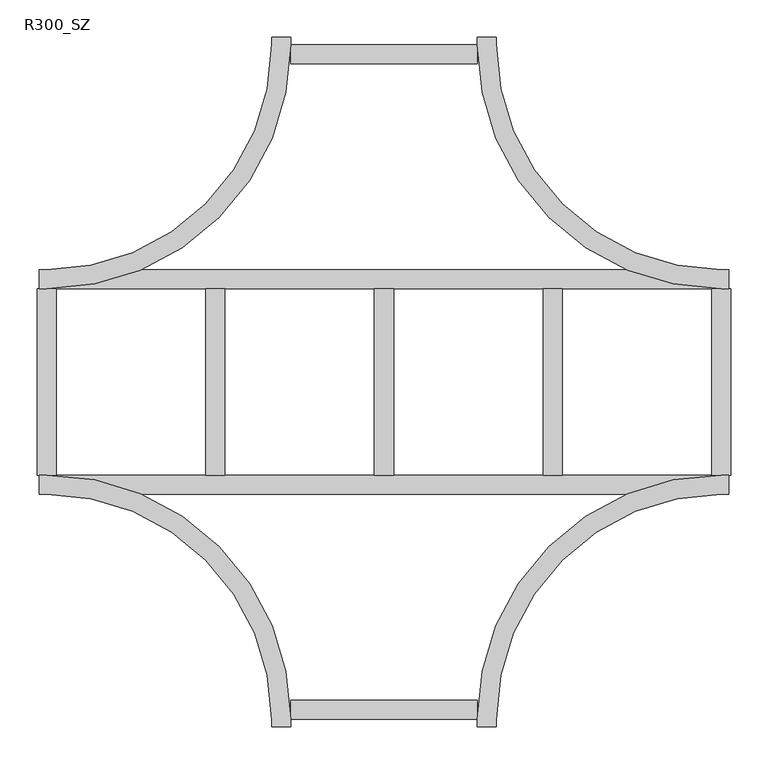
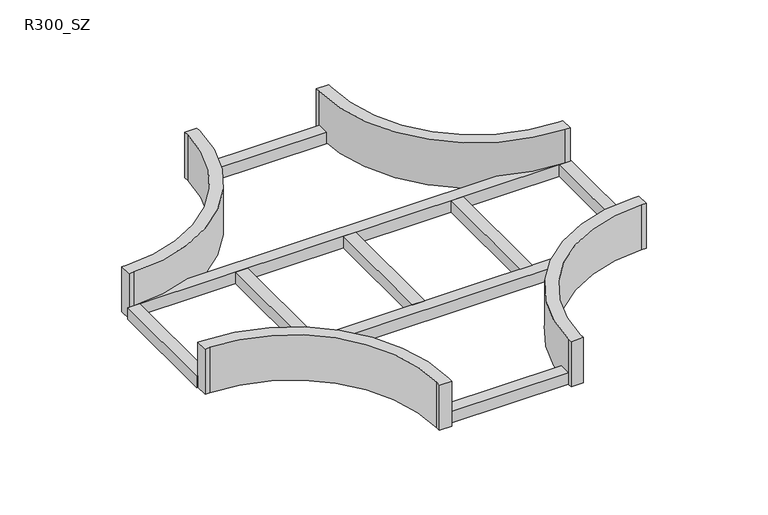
"""IFC4 building model written with IfcOpenShell, lengths in millimetres: cable carrier fitting geometry, IEK_Лестничный_Крестовина : R300_SZ."""

from ifc_helpers import new_model, si_unit, frame, origin, place, context, project, spatial, polyline, circle_curve, outline, extrude, source, transform, mapped, element, save
from ifc_brep_helpers import plane_surface, cylinder_surface, revolved_surface, advanced_brep


def r300_sz_aaf5c616(model_context):
    return source(origin(), model_context, "Body", "SolidModel", [
        extrude(outline(polyline([(124.6, -424.6), (124.6, -450.0), (-124.6, -450.0), (-124.6, -424.6), (124.6, -424.6)])), frame((0.0, 0.0, -50.0), z_axis=(0.0, 0.0, 1.0), x_axis=(1.0, 0.0, 0.0)), (0.0, 0.0, 1.0), 25.4),
        extrude(outline(polyline([(124.6, 450.0), (124.6, 424.6), (-124.6, 424.6), (-124.6, 450.0), (124.6, 450.0)])), frame((0.0, 0.0, -50.0), z_axis=(0.0, 0.0, 1.0), x_axis=(1.0, 0.0, 0.0)), (0.0, 0.0, 1.0), 25.4),
        extrude(outline(polyline([(462.7, 124.6), (462.7, -124.6), (437.3, -124.6), (437.3, 124.6), (462.7, 124.6)])), frame((0.0, 0.0, -50.0), z_axis=(0.0, 0.0, 1.0), x_axis=(1.0, 0.0, 0.0)), (0.0, 0.0, 1.0), 25.4),
        extrude(outline(polyline([(237.7, 124.6), (237.7, -124.6), (212.3, -124.6), (212.3, 124.6), (237.7, 124.6)])), frame((0.0, 0.0, -50.0), z_axis=(0.0, 0.0, 1.0), x_axis=(1.0, 0.0, 0.0)), (0.0, 0.0, 1.0), 25.4),
        extrude(outline(polyline([(12.7, 124.6), (12.7, -124.6), (-12.7, -124.6), (-12.7, 124.6), (12.7, 124.6)])), frame((0.0, 0.0, -50.0), z_axis=(0.0, 0.0, 1.0), x_axis=(1.0, 0.0, 0.0)), (0.0, 0.0, 1.0), 25.4),
        extrude(outline(polyline([(-212.3, 124.6), (-212.3, -124.6), (-237.7, -124.6), (-237.7, 124.6), (-212.3, 124.6)])), frame((0.0, 0.0, -50.0), z_axis=(0.0, 0.0, 1.0), x_axis=(1.0, 0.0, 0.0)), (0.0, 0.0, 1.0), 25.4),
        extrude(outline(polyline([(-437.3, 124.6), (-437.3, -124.6), (-462.7, -124.6), (-462.7, 124.6), (-437.3, 124.6)])), frame((0.0, 0.0, -50.0), z_axis=(0.0, 0.0, 1.0), x_axis=(1.0, 0.0, 0.0)), (0.0, 0.0, 1.0), 25.4),
        advanced_brep(
        [(-150.0, -450.0, 50.0), (-150.0, -460.0, 50.0), (-124.6, -460.0, 50.0), (-124.6, -450.0, 50.0), (-450.0, -124.6, 50.0), (-460.0, -124.6, 50.0), (-460.0, -150.0, 50.0), (-450.0, -150.0, 50.0), (150.0, -450.0, 50.0), (450.0, -150.0, 50.0), (460.0, -150.0, 50.0), (460.0, -124.6, 50.0), (450.0, -124.6, 50.0), (124.6, -450.0, 50.0), (124.6, -460.0, 50.0), (150.0, -460.0, 50.0), (-150.0, -450.0, -50.0), (-450.0, -150.0, -50.0), (-460.0, -150.0, -50.0), (-460.0, -124.6, -50.0), (460.0, -124.6, -50.0), (460.0, -150.0, -50.0), (450.0, -150.0, -50.0), (150.0, -450.0, -50.0), (150.0, -460.0, -50.0), (124.6, -460.0, -50.0), (124.6, -450.0, -50.0), (323.9636561, -150.0, -50.0), (-323.9636561, -150.0, -50.0), (-124.6, -450.0, -50.0), (-124.6, -460.0, -50.0), (-150.0, -460.0, -50.0), (-323.9636561, -150.0, -24.6), (-450.0, -124.6, -24.6), (450.0, -124.6, -24.6), (-450.0, -150.0, -24.6), (450.0, -150.0, -24.6), (323.9636561, -150.0, -24.6)],
        [
            (0, 1),
            (1, 2),
            (2, 3),
            (3, 4, circle_curve(frame((-450.0, -450.0, 50.0), z_axis=(0.0, 0.0, 1.0), x_axis=(1.0, 0.0, 0.0)), 325.4)),
            (4, 5),
            (5, 6),
            (6, 7),
            (7, 0, circle_curve(frame((-450.0, -450.0, 50.0), z_axis=(0.0, 0.0, -1.0), x_axis=(1.0, 0.0, 0.0)), 300.0)),
            (8, 9, circle_curve(frame((450.0, -450.0, 50.0), z_axis=(0.0, 0.0, -1.0), x_axis=(1.0, 0.0, 0.0)), 300.0)),
            (9, 10),
            (10, 11),
            (11, 12),
            (12, 13, circle_curve(frame((450.0, -450.0, 50.0), z_axis=(0.0, 0.0, 1.0), x_axis=(1.0, 0.0, 0.0)), 325.4)),
            (13, 14),
            (14, 15),
            (15, 8),
            (16, 17, circle_curve(frame((-450.0, -450.0, -50.0), z_axis=(0.0, 0.0, 1.0), x_axis=(1.0, 0.0, 0.0)), 300.0)),
            (17, 18),
            (18, 19),
            (19, 20),
            (20, 21),
            (21, 22),
            (22, 23, circle_curve(frame((450.0, -450.0, -50.0), z_axis=(0.0, 0.0, 1.0), x_axis=(1.0, 0.0, 0.0)), 300.0)),
            (23, 24),
            (24, 25),
            (25, 26),
            (26, 27, circle_curve(frame((450.0, -450.0, -50.0), z_axis=(0.0, 0.0, -1.0), x_axis=(1.0, 0.0, 0.0)), 325.4)),
            (27, 28),
            (28, 29, circle_curve(frame((-450.0, -450.0, -50.0), z_axis=(0.0, 0.0, -1.0), x_axis=(1.0, 0.0, 0.0)), 325.4)),
            (29, 30),
            (30, 31),
            (31, 16),
            (0, 16),
            (31, 1),
            (30, 2),
            (29, 3),
            (28, 32),
            (32, 33, circle_curve(frame((-450.0, -450.0, -24.6), z_axis=(0.0, 0.0, 1.0), x_axis=(1.0, 0.0, 0.0)), 325.4)),
            (33, 4),
            (33, 34),
            (34, 12),
            (11, 20),
            (19, 5),
            (18, 6),
            (17, 35),
            (35, 7),
            (8, 23),
            (22, 36),
            (36, 9),
            (21, 10),
            (34, 37, circle_curve(frame((450.0, -450.0, -24.6), z_axis=(0.0, 0.0, 1.0), x_axis=(1.0, 0.0, 0.0)), 325.4)),
            (37, 27),
            (26, 13),
            (25, 14),
            (24, 15),
            (32, 37),
        ],
        [
            plane_surface(frame((-150.0, -450.0, 50.0), z_axis=(0.0, 0.0, 1.0), x_axis=(0.0, -1.0, 0.0))),
            plane_surface(frame((-150.0, -450.0, -50.0), z_axis=(0.0, 0.0, -1.0), x_axis=(0.0, 1.0, 0.0))),
            plane_surface(frame((-150.0, -450.0, 50.0), z_axis=(-1.0, 0.0, 0.0), x_axis=(0.0, 0.0, -1.0))),
            plane_surface(frame((-150.0, -460.0, 50.0), z_axis=(0.0, -1.0, 0.0), x_axis=(0.0, 0.0, -1.0))),
            plane_surface(frame((-124.6, -460.0, 50.0), z_axis=(1.0, 0.0, 0.0), x_axis=(0.0, 0.0, -1.0))),
            cylinder_surface(frame((-450.0, -450.0, -50.0), z_axis=(0.0, 0.0, 1.0), x_axis=(1.0, 0.0, 0.0)), 325.4),
            plane_surface(frame((-450.0, -124.6, 50.0), z_axis=(0.0, 1.0, 0.0), x_axis=(0.0, 0.0, -1.0))),
            plane_surface(frame((-460.0, -124.6, 50.0), z_axis=(-1.0, 0.0, 0.0), x_axis=(0.0, 0.0, -1.0))),
            plane_surface(frame((-460.0, -150.0, 50.0), z_axis=(0.0, -1.0, 0.0), x_axis=(0.0, 0.0, -1.0))),
            revolved_surface(polyline([(-150.0, -450.0, -50.0), (-150.0, -450.0, 50.0)]), (-450.0, -450.0, -50.0), (0.0, 0.0, -1.0)),
            revolved_surface(polyline([(750.0, -450.0, -50.0), (750.0, -450.0, 50.0)]), (450.0, -450.0, 0.0), (0.0, 0.0, -1.0)),
            plane_surface(frame((450.0, -150.0, 50.0), z_axis=(0.0, -1.0, 0.0), x_axis=(0.0, 0.0, -1.0))),
            plane_surface(frame((460.0, -150.0, 50.0), z_axis=(1.0, 0.0, 0.0), x_axis=(0.0, 0.0, -1.0))),
            cylinder_surface(frame((450.0, -450.0, 0.0), z_axis=(0.0, 0.0, 1.0), x_axis=(1.0, 0.0, 0.0)), 325.4),
            plane_surface(frame((124.6, -450.0, 50.0), z_axis=(-1.0, 0.0, 0.0), x_axis=(0.0, 0.0, -1.0))),
            plane_surface(frame((124.6, -460.0, 50.0), z_axis=(0.0, -1.0, 0.0), x_axis=(0.0, 0.0, -1.0))),
            plane_surface(frame((150.0, -460.0, 50.0), z_axis=(1.0, 0.0, 0.0), x_axis=(0.0, 0.0, -1.0))),
            plane_surface(frame((-450.0, -124.6, -24.6), z_axis=(0.0, 0.0, 1.0), x_axis=(-1.0, 0.0, 0.0))),
            plane_surface(frame((-450.0, -150.0, -24.6), z_axis=(0.0, -1.0, 0.0), x_axis=(0.0, 0.0, -1.0))),
        ],
        [
            (0, [[1, 2, 3, 4, 5, 6, 7, 8]]),
            (0, [[9, 10, 11, 12, 13, 14, 15, 16]]),
            (1, [[17, 18, 19, 20, 21, 22, 23, 24, 25, 26, 27, 28, 29, 30, 31, 32]]),
            (2, [[-1, 33, -32, 34]]),
            (3, [[-2, -34, -31, 35]]),
            (4, [[-3, -35, -30, 36]]),
            (5, [[-4, -36, -29, 37, 38, 39]]),
            (6, [[-5, -39, 40, 41, -12, 42, -20, 43]]),
            (7, [[-6, -43, -19, 44]]),
            (8, [[-7, -44, -18, 45, 46]]),
            (9, [[-8, -46, -45, -17, -33]]),
            (10, [[-9, 47, -23, 48, 49]]),
            (11, [[-10, -49, -48, -22, 50]]),
            (12, [[-11, -50, -21, -42]]),
            (13, [[-13, -41, 51, 52, -27, 53]]),
            (14, [[-14, -53, -26, 54]]),
            (15, [[-15, -54, -25, 55]]),
            (16, [[-16, -55, -24, -47]]),
            (17, [[-40, -38, 56, -51]]),
            (18, [[-28, -52, -56, -37]]),
        ],
    ),
        advanced_brep(
        [(-124.6, 450.0, 50.0), (-124.6, 460.0, 50.0), (-150.0, 460.0, 50.0), (-150.0, 450.0, 50.0), (-450.0, 150.0, 50.0), (-460.0, 150.0, 50.0), (-460.0, 124.6, 50.0), (-450.0, 124.6, 50.0), (124.6, 450.0, 50.0), (450.0, 124.6, 50.0), (460.0, 124.6, 50.0), (460.0, 150.0, 50.0), (450.0, 150.0, 50.0), (150.0, 450.0, 50.0), (150.0, 460.0, 50.0), (124.6, 460.0, 50.0), (-460.0, 124.6, -50.0), (-460.0, 150.0, -50.0), (-450.0, 150.0, -50.0), (-150.0, 450.0, -50.0), (-150.0, 460.0, -50.0), (-124.6, 460.0, -50.0), (-124.6, 450.0, -50.0), (-323.9636561, 150.0, -50.0), (323.9636561, 150.0, -50.0), (124.6, 450.0, -50.0), (124.6, 460.0, -50.0), (150.0, 460.0, -50.0), (150.0, 450.0, -50.0), (450.0, 150.0, -50.0), (460.0, 150.0, -50.0), (460.0, 124.6, -50.0), (-450.0, 124.6, -24.6), (450.0, 124.6, -24.6), (323.9636561, 150.0, -24.6), (-323.9636561, 150.0, -24.6), (-450.0, 150.0, -24.6), (450.0, 150.0, -24.6)],
        [
            (0, 1),
            (1, 2),
            (2, 3),
            (3, 4, circle_curve(frame((-450.0, 450.0, 50.0), z_axis=(0.0, 0.0, -1.0), x_axis=(1.0, 0.0, 0.0)), 300.0)),
            (4, 5),
            (5, 6),
            (6, 7),
            (7, 0, circle_curve(frame((-450.0, 450.0, 50.0), z_axis=(0.0, 0.0, 1.0), x_axis=(1.0, 0.0, 0.0)), 325.4)),
            (8, 9, circle_curve(frame((450.0, 450.0, 50.0), z_axis=(0.0, 0.0, 1.0), x_axis=(1.0, 0.0, 0.0)), 325.4)),
            (9, 10),
            (10, 11),
            (11, 12),
            (12, 13, circle_curve(frame((450.0, 450.0, 50.0), z_axis=(0.0, 0.0, -1.0), x_axis=(1.0, 0.0, 0.0)), 300.0)),
            (13, 14),
            (14, 15),
            (15, 8),
            (16, 17),
            (17, 18),
            (18, 19, circle_curve(frame((-450.0, 450.0, -50.0), z_axis=(0.0, 0.0, 1.0), x_axis=(1.0, 0.0, 0.0)), 300.0)),
            (19, 20),
            (20, 21),
            (21, 22),
            (22, 23, circle_curve(frame((-450.0, 450.0, -50.0), z_axis=(0.0, 0.0, -1.0), x_axis=(1.0, 0.0, 0.0)), 325.4)),
            (23, 24),
            (24, 25, circle_curve(frame((450.0, 450.0, -50.0), z_axis=(0.0, 0.0, -1.0), x_axis=(1.0, 0.0, 0.0)), 325.4)),
            (25, 26),
            (26, 27),
            (27, 28),
            (28, 29, circle_curve(frame((450.0, 450.0, -50.0), z_axis=(0.0, 0.0, 1.0), x_axis=(1.0, 0.0, 0.0)), 300.0)),
            (29, 30),
            (30, 31),
            (31, 16),
            (32, 33),
            (33, 34, circle_curve(frame((450.0, 450.0, -24.6), z_axis=(0.0, 0.0, -1.0), x_axis=(1.0, 0.0, 0.0)), 325.4)),
            (34, 35),
            (35, 32, circle_curve(frame((-450.0, 450.0, -24.6), z_axis=(0.0, 0.0, -1.0), x_axis=(1.0, 0.0, 0.0)), 325.4)),
            (0, 22),
            (21, 1),
            (20, 2),
            (19, 3),
            (18, 36),
            (36, 4),
            (17, 5),
            (16, 6),
            (31, 10),
            (9, 33),
            (32, 7),
            (35, 23),
            (8, 25),
            (24, 34),
            (30, 11),
            (29, 37),
            (37, 12),
            (28, 13),
            (27, 14),
            (26, 15),
        ],
        [
            plane_surface(frame((-150.0, -450.0, 50.0), z_axis=(0.0, 0.0, 1.0), x_axis=(0.0, -1.0, 0.0))),
            plane_surface(frame((-150.0, -450.0, -50.0), z_axis=(0.0, 0.0, -1.0), x_axis=(0.0, 1.0, 0.0))),
            plane_surface(frame((-450.0, -124.6, -24.6), z_axis=(0.0, 0.0, 1.0), x_axis=(-1.0, 0.0, 0.0))),
            plane_surface(frame((-124.6, 450.0, 50.0), z_axis=(1.0, 0.0, 0.0), x_axis=(0.0, 0.0, -1.0))),
            plane_surface(frame((-124.6, 460.0, 50.0), z_axis=(0.0, 1.0, 0.0), x_axis=(0.0, 0.0, -1.0))),
            plane_surface(frame((-150.0, 460.0, 50.0), z_axis=(-1.0, 0.0, 0.0), x_axis=(0.0, 0.0, -1.0))),
            revolved_surface(polyline([(-150.0, 450.0, -50.0), (-150.0, 450.0, 50.0)]), (-450.0, 450.0, 0.0), (0.0, 0.0, -1.0)),
            plane_surface(frame((-450.0, 150.0, 50.0), z_axis=(0.0, 1.0, 0.0), x_axis=(0.0, 0.0, -1.0))),
            plane_surface(frame((-460.0, 150.0, 50.0), z_axis=(-1.0, 0.0, 0.0), x_axis=(0.0, 0.0, -1.0))),
            plane_surface(frame((-460.0, 124.6, 50.0), z_axis=(0.0, -1.0, 0.0), x_axis=(0.0, 0.0, -1.0))),
            cylinder_surface(frame((-450.0, 450.0, 0.0), z_axis=(0.0, 0.0, 1.0), x_axis=(1.0, 0.0, 0.0)), 325.4),
            cylinder_surface(frame((450.0, 450.0, 0.0), z_axis=(0.0, 0.0, 1.0), x_axis=(1.0, 0.0, 0.0)), 325.4),
            plane_surface(frame((460.0, 124.6, 50.0), z_axis=(1.0, 0.0, 0.0), x_axis=(0.0, 0.0, -1.0))),
            plane_surface(frame((460.0, 150.0, 50.0), z_axis=(0.0, 1.0, 0.0), x_axis=(0.0, 0.0, -1.0))),
            revolved_surface(polyline([(750.0, 450.0, -50.0), (750.0, 450.0, 50.0)]), (450.0, 450.0, 0.0), (0.0, 0.0, -1.0)),
            plane_surface(frame((150.0, 450.0, 50.0), z_axis=(1.0, 0.0, 0.0), x_axis=(0.0, 0.0, -1.0))),
            plane_surface(frame((150.0, 460.0, 50.0), z_axis=(0.0, 1.0, 0.0), x_axis=(0.0, 0.0, -1.0))),
            plane_surface(frame((124.6, 460.0, 50.0), z_axis=(-1.0, 0.0, 0.0), x_axis=(0.0, 0.0, -1.0))),
            plane_surface(frame((450.0, 150.0, -24.6), z_axis=(0.0, 1.0, 0.0), x_axis=(0.0, 0.0, -1.0))),
        ],
        [
            (0, [[1, 2, 3, 4, 5, 6, 7, 8]]),
            (0, [[9, 10, 11, 12, 13, 14, 15, 16]]),
            (1, [[17, 18, 19, 20, 21, 22, 23, 24, 25, 26, 27, 28, 29, 30, 31, 32]]),
            (2, [[33, 34, 35, 36]]),
            (3, [[-1, 37, -22, 38]]),
            (4, [[-2, -38, -21, 39]]),
            (5, [[-3, -39, -20, 40]]),
            (6, [[-4, -40, -19, 41, 42]]),
            (7, [[-5, -42, -41, -18, 43]]),
            (8, [[-6, -43, -17, 44]]),
            (9, [[-7, -44, -32, 45, -10, 46, -33, 47]]),
            (10, [[-8, -47, -36, 48, -23, -37]]),
            (11, [[-9, 49, -25, 50, -34, -46]]),
            (12, [[-11, -45, -31, 51]]),
            (13, [[-12, -51, -30, 52, 53]]),
            (14, [[-13, -53, -52, -29, 54]]),
            (15, [[-14, -54, -28, 55]]),
            (16, [[-15, -55, -27, 56]]),
            (17, [[-16, -56, -26, -49]]),
            (18, [[-24, -48, -35, -50]]),
        ],
    ),
    ])


if __name__ == "__main__":
    model = new_model("IFC4")
    model_context = context("Model", 3, world=origin())
    ifc_project = project(units=[si_unit("LENGTHUNIT", "METRE", prefix="MILLI")], contexts=[model_context])
    site = spatial("IfcSite", under=ifc_project)
    building = spatial("IfcBuilding", under=site)
    placement = place(None, origin())
    r300_sz_shape = r300_sz_aaf5c616(model_context)
    element("IfcCableCarrierFitting", 1, ObjectType="IEK_Лестничный_Крестовина : R300_SZ", at=placement, inside=building, context=model_context, shape_type="MappedRepresentation", body=[
        mapped(r300_sz_shape, transform((0.0, 0.0, 0.0), x_axis=(1.0, 0.0, 0.0), y_axis=(0.0, 1.0, 0.0), z_axis=(0.0, 0.0, 1.0))),
    ])
    save(model, "model.ifc")
